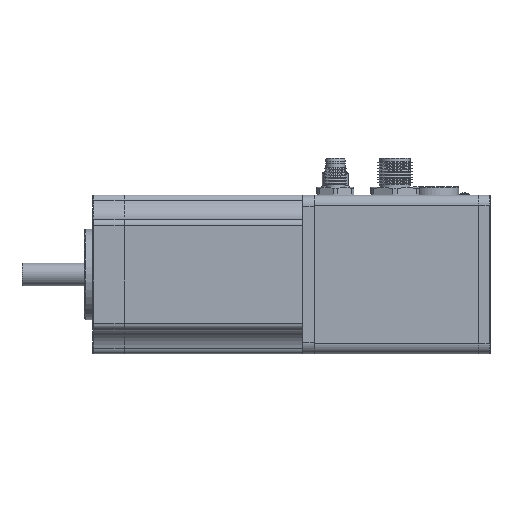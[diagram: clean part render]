
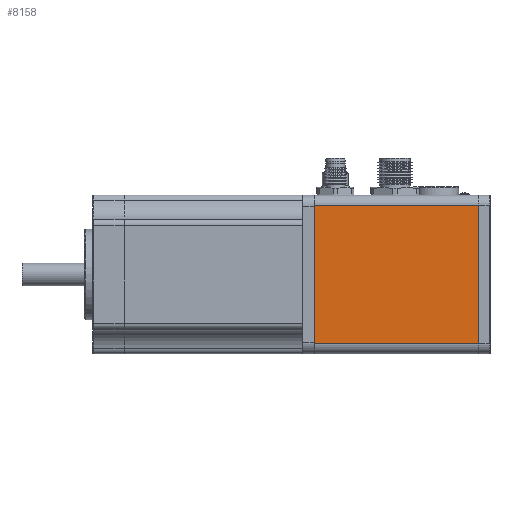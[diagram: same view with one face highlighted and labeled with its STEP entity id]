
A CAD part, front view. The second image highlights one B-rep face of the part: STEP entity #8158.
In plain terms, the highlighted planar face has unit normal (0, -1, 0).
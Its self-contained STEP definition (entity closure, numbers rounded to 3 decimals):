
#8158=ADVANCED_FACE('',(#17223),#17224,.T.);
#17223=FACE_OUTER_BOUND('',#29288,.T.);
#17224=PLANE('',#29289);
#29288=EDGE_LOOP('',(#45625,#45626,#45627,#45628));
#29289=AXIS2_PLACEMENT_3D('',#45629,#45630,#45631);
#45625=ORIENTED_EDGE('',*,*,#57316,.T.);
#45626=ORIENTED_EDGE('',*,*,#57317,.F.);
#45627=ORIENTED_EDGE('',*,*,#57318,.T.);
#45628=ORIENTED_EDGE('',*,*,#57313,.T.);
#45629=CARTESIAN_POINT('',(78.0,-28.0,0.));
#45630=DIRECTION('',(0.0,-1.0,0.0));
#45631=DIRECTION('',(0.0,0.0,-1.0));
#57313=EDGE_CURVE('',#62246,#62244,#62247,.T.);
#57316=EDGE_CURVE('',#62244,#62250,#62251,.T.);
#57317=EDGE_CURVE('',#62252,#62250,#62253,.T.);
#57318=EDGE_CURVE('',#62252,#62246,#62254,.T.);
#62244=VERTEX_POINT('',#68761);
#62246=VERTEX_POINT('',#68763);
#62247=LINE('',#68764,#68765);
#62250=VERTEX_POINT('',#68768);
#62251=LINE('',#68769,#68770);
#62252=VERTEX_POINT('',#68771);
#62253=LINE('',#68772,#68773);
#62254=LINE('',#68774,#68775);
#68761=CARTESIAN_POINT('',(136.0,-28.0,-24.4));
#68763=CARTESIAN_POINT('',(78.0,-28.0,-24.4));
#68764=CARTESIAN_POINT('',(78.0,-28.0,-24.4));
#68765=VECTOR('',#74670,1.0);
#68768=CARTESIAN_POINT('',(136.0,-28.,24.4));
#68769=CARTESIAN_POINT('',(136.0,-28.0,24.4));
#68770=VECTOR('',#74674,1.0);
#68771=CARTESIAN_POINT('',(78.0,-28.,24.4));
#68772=CARTESIAN_POINT('',(78.0,-28.,24.4));
#68773=VECTOR('',#74675,1.0);
#68774=CARTESIAN_POINT('',(78.0,-28.0,24.4));
#68775=VECTOR('',#74676,1.0);
#74670=DIRECTION('',(1.0,0.0,0.0));
#74674=DIRECTION('',(-0.0,0.0,1.0));
#74675=DIRECTION('',(1.0,0.0,0.0));
#74676=DIRECTION('',(0.0,0.0,-1.0));
